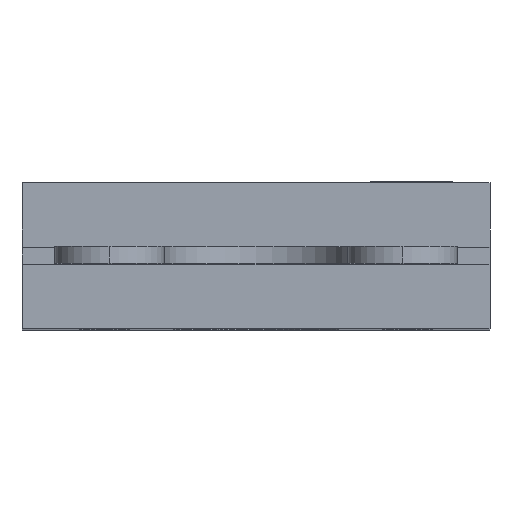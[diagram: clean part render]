
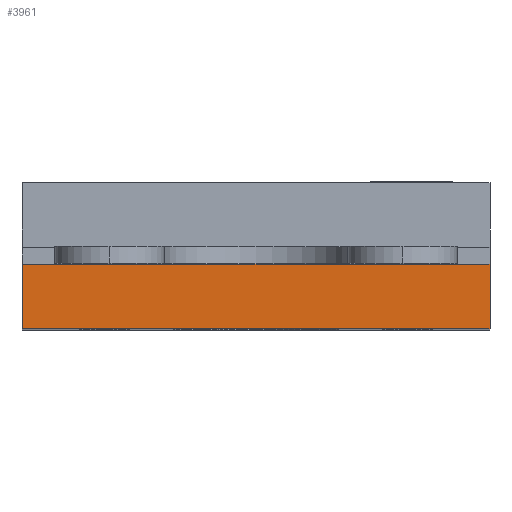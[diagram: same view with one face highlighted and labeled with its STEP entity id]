
A CAD part, top view. The second image highlights one B-rep face of the part: STEP entity #3961.
In plain terms, the highlighted planar face has unit normal (0, 0, 1).
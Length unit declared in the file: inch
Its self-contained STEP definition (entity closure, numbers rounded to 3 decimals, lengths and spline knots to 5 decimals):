
#312=PLANE('',#4138);
#501=FACE_OUTER_BOUND('',#728,.T.);
#728=EDGE_LOOP('',(#3380,#3381,#3382,#3383,#3384,#3385));
#1052=LINE('',#6909,#1442);
#1069=LINE('',#6945,#1459);
#1070=LINE('',#6947,#1460);
#1071=LINE('',#6949,#1461);
#1072=LINE('',#6951,#1462);
#1073=LINE('',#6952,#1463);
#1442=VECTOR('',#4671,0.3937);
#1459=VECTOR('',#4700,0.3937);
#1460=VECTOR('',#4701,0.3937);
#1461=VECTOR('',#4702,0.3937);
#1462=VECTOR('',#4703,0.3937);
#1463=VECTOR('',#4704,0.3937);
#1900=VERTEX_POINT('',#6903);
#1902=VERTEX_POINT('',#6907);
#1915=VERTEX_POINT('',#6944);
#1916=VERTEX_POINT('',#6946);
#1917=VERTEX_POINT('',#6948);
#1918=VERTEX_POINT('',#6950);
#2410=EDGE_CURVE('',#1900,#1902,#1052,.T.);
#2427=EDGE_CURVE('',#1902,#1915,#1069,.T.);
#2428=EDGE_CURVE('',#1916,#1915,#1070,.T.);
#2429=EDGE_CURVE('',#1916,#1917,#1071,.T.);
#2430=EDGE_CURVE('',#1917,#1918,#1072,.T.);
#2431=EDGE_CURVE('',#1918,#1900,#1073,.T.);
#3380=ORIENTED_EDGE('',*,*,#2410,.T.);
#3381=ORIENTED_EDGE('',*,*,#2427,.T.);
#3382=ORIENTED_EDGE('',*,*,#2428,.F.);
#3383=ORIENTED_EDGE('',*,*,#2429,.T.);
#3384=ORIENTED_EDGE('',*,*,#2430,.T.);
#3385=ORIENTED_EDGE('',*,*,#2431,.T.);
#3961=ADVANCED_FACE('',(#501),#312,.T.);
#4138=AXIS2_PLACEMENT_3D('',#6943,#4698,#4699);
#4671=DIRECTION('',(-1.,0.,0.));
#4698=DIRECTION('center_axis',(0.,0.,1.));
#4699=DIRECTION('ref_axis',(1.,0.,0.));
#4700=DIRECTION('',(0.,-1.,0.));
#4701=DIRECTION('',(-1.,0.,0.));
#4702=DIRECTION('',(0.,1.,0.));
#4703=DIRECTION('',(-1.,0.,0.));
#4704=DIRECTION('',(-1.,0.,0.));
#6903=CARTESIAN_POINT('',(-0.37894,-0.016,0.72638));
#6907=CARTESIAN_POINT('',(-0.44094,-0.016,0.72638));
#6909=CARTESIAN_POINT('',(-0.44094,-0.016,0.72638));
#6943=CARTESIAN_POINT('Origin',(-0.44094,0.,0.72638));
#6944=CARTESIAN_POINT('',(-0.44094,-0.1378,0.72638));
#6945=CARTESIAN_POINT('',(-0.44094,0.,0.72638));
#6946=CARTESIAN_POINT('',(0.44094,-0.1378,0.72638));
#6947=CARTESIAN_POINT('',(-0.44094,-0.1378,0.72638));
#6948=CARTESIAN_POINT('',(0.44094,-0.016,0.72638));
#6949=CARTESIAN_POINT('',(0.44094,0.,0.72638));
#6950=CARTESIAN_POINT('',(0.37894,-0.016,0.72638));
#6951=CARTESIAN_POINT('',(0.,-0.016,0.72638));
#6952=CARTESIAN_POINT('',(-0.22047,-0.016,0.72638));
